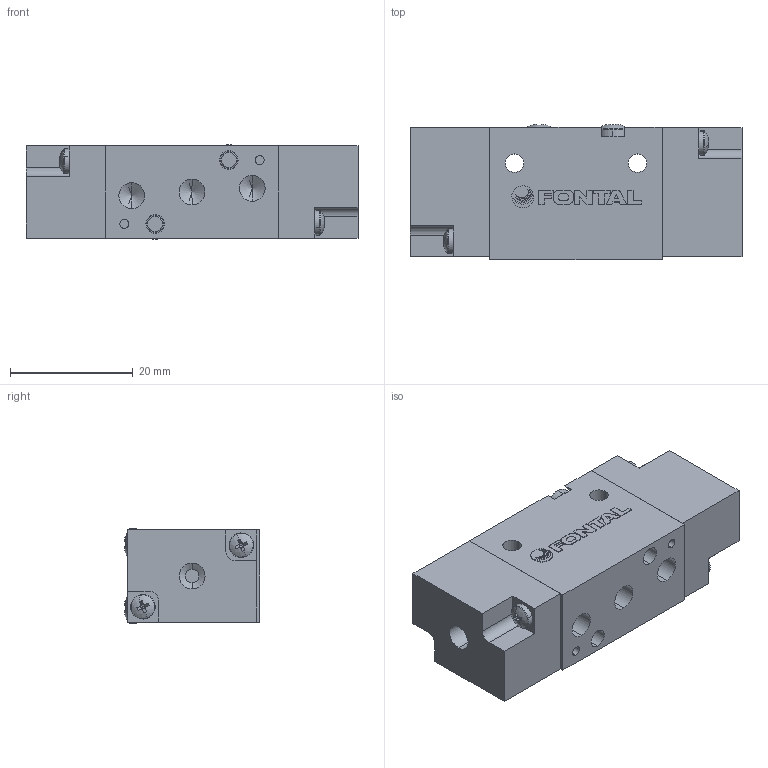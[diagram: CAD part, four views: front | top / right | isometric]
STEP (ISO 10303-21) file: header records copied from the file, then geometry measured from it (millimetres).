
FILE_DESCRIPTION (( 'STEP AP203' ), '1' );
FILE_NAME ('YCD245-M5.STEP', '2016-01-13T18:17:03', ( '' ), ( '' ), 'SwSTEP 2.0', 'SolidWorks 2014', '' );
FILE_SCHEMA (( 'CONFIG_CONTROL_DESIGN' ));
Length unit declared in the file: millimetre
Products named in the file (7): VCS245-右側; RCS-1; ISO 7045 - M2 x 10; VCS245-1; PC-MARK; YCD245-M5; ISO 7045 - M2.5 x 25
Assembly tree (9 placements, depth 3):
  YCD245-M5
    RCS-1
    PC-MARK
    ISO 7045 - M2.5 x 25  x2
    VCS245-右側  x2
      VCS245-1
      ISO 7045 - M2 x 10
Bounding box: 54 x 22.05 x 15.4 mm (x, y, z)
Volume: 15000.4 mm3; surface area: 8676.7 mm2
Topology: 16 solids, 16 shells, 442 faces, 1084 edges, 665 vertices
Faces by surface type: plane 233, cylinder 85, cone 80, torus 24, sphere 12, bspline 8
Entity records: 8209 total; most frequent: CARTESIAN_POINT 1434, DIRECTION 1288, ORIENTED_EDGE 1208, EDGE_CURVE 604, AXIS2_PLACEMENT_3D 473, VERTEX_POINT 387, LINE 342, VECTOR 342
